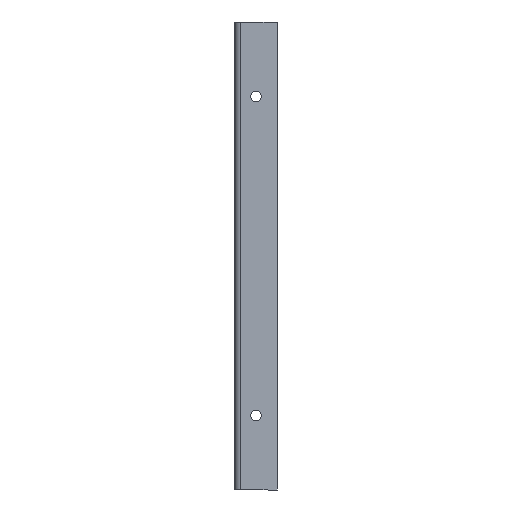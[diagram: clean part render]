
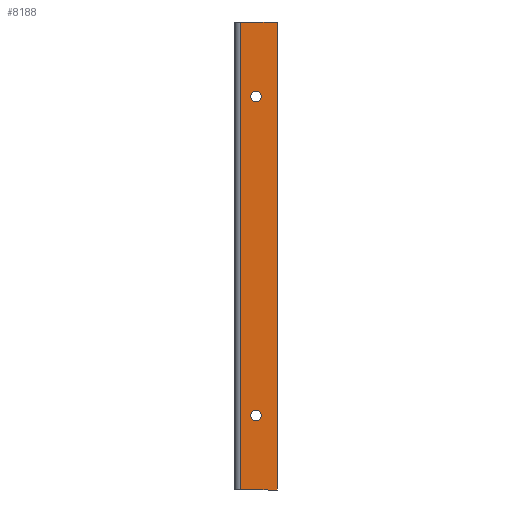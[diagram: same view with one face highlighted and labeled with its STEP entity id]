
A CAD part, front view. The second image highlights one B-rep face of the part: STEP entity #8188.
In plain terms, the highlighted planar face has unit normal (0, -1, 0).
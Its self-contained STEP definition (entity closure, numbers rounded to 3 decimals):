
#83 = CIRCLE ( 'NONE', #3416, 2.5 ) ;
#104 = VECTOR ( 'NONE', #7943, 1000. ) ;
#305 = VECTOR ( 'NONE', #509, 1000. ) ;
#463 = ORIENTED_EDGE ( 'NONE', *, *, #4886, .F. ) ;
#490 = LINE ( 'NONE', #6359, #4039 ) ;
#509 = DIRECTION ( 'NONE',  ( 0., 0., -1. ) ) ;
#555 = EDGE_LOOP ( 'NONE', ( #7498, #463 ) ) ;
#562 = FACE_OUTER_BOUND ( 'NONE', #2497, .T. ) ;
#565 = DIRECTION ( 'NONE',  ( -1., 0., 0. ) ) ;
#649 = CIRCLE ( 'NONE', #8362, 2.5 ) ;
#812 = DIRECTION ( 'NONE',  ( 0., -1., 0. ) ) ;
#867 = VERTEX_POINT ( 'NONE', #5971 ) ;
#869 = EDGE_CURVE ( 'NONE', #7616, #867, #3532, .T. ) ;
#918 = EDGE_CURVE ( 'NONE', #7039, #6592, #2030, .T. ) ;
#964 = FACE_BOUND ( 'NONE', #555, .T. ) ;
#1335 = EDGE_CURVE ( 'NONE', #7616, #5895, #490, .T. ) ;
#1401 = AXIS2_PLACEMENT_3D ( 'NONE', #2855, #5992, #3437 ) ;
#1469 = VERTEX_POINT ( 'NONE', #5785 ) ;
#1473 = CARTESIAN_POINT ( 'NONE',  ( 120., -2., 100. ) ) ;
#1511 = VERTEX_POINT ( 'NONE', #7115 ) ;
#1671 = ORIENTED_EDGE ( 'NONE', *, *, #3960, .F. ) ;
#1777 = CARTESIAN_POINT ( 'NONE',  ( 120., -2., 100. ) ) ;
#1911 = EDGE_CURVE ( 'NONE', #867, #3880, #2838, .T. ) ;
#2030 = CIRCLE ( 'NONE', #3813, 2.5 ) ;
#2435 = CARTESIAN_POINT ( 'NONE',  ( 102.736, -2., -120. ) ) ;
#2441 = CARTESIAN_POINT ( 'NONE',  ( 120., -2., 100. ) ) ;
#2452 = CARTESIAN_POINT ( 'NONE',  ( 110., -2., 62.5 ) ) ;
#2473 = EDGE_CURVE ( 'NONE', #3880, #5895, #5758, .T. ) ;
#2497 = EDGE_LOOP ( 'NONE', ( #2871, #3937, #5492, #7810 ) ) ;
#2804 = DIRECTION ( 'NONE',  ( 0., 0., -1. ) ) ;
#2838 = LINE ( 'NONE', #2441, #305 ) ;
#2855 = CARTESIAN_POINT ( 'NONE',  ( 110., -2., 65. ) ) ;
#2871 = ORIENTED_EDGE ( 'NONE', *, *, #869, .F. ) ;
#3416 = AXIS2_PLACEMENT_3D ( 'NONE', #3910, #7266, #5917 ) ;
#3437 = DIRECTION ( 'NONE',  ( 0., 0., -1. ) ) ;
#3497 = DIRECTION ( 'NONE',  ( 0., -1., 0. ) ) ;
#3532 = LINE ( 'NONE', #1473, #104 ) ;
#3765 = CARTESIAN_POINT ( 'NONE',  ( 120., -2., -120. ) ) ;
#3813 = AXIS2_PLACEMENT_3D ( 'NONE', #4091, #3497, #2804 ) ;
#3880 = VERTEX_POINT ( 'NONE', #6655 ) ;
#3910 = CARTESIAN_POINT ( 'NONE',  ( 110., -2., -85. ) ) ;
#3937 = ORIENTED_EDGE ( 'NONE', *, *, #1335, .T. ) ;
#3960 = EDGE_CURVE ( 'NONE', #6592, #7039, #8197, .T. ) ;
#4039 = VECTOR ( 'NONE', #7599, 1000. ) ;
#4091 = CARTESIAN_POINT ( 'NONE',  ( 110., -2., 65. ) ) ;
#4356 = EDGE_LOOP ( 'NONE', ( #5400, #1671 ) ) ;
#4726 = CARTESIAN_POINT ( 'NONE',  ( 110., -2., -85. ) ) ;
#4886 = EDGE_CURVE ( 'NONE', #1469, #1511, #649, .T. ) ;
#5034 = PLANE ( 'NONE',  #6249 ) ;
#5400 = ORIENTED_EDGE ( 'NONE', *, *, #918, .F. ) ;
#5421 = DIRECTION ( 'NONE',  ( 0., 0., -1. ) ) ;
#5477 = EDGE_CURVE ( 'NONE', #1511, #1469, #83, .T. ) ;
#5492 = ORIENTED_EDGE ( 'NONE', *, *, #2473, .F. ) ;
#5758 = LINE ( 'NONE', #3765, #5857 ) ;
#5785 = CARTESIAN_POINT ( 'NONE',  ( 110., -2., -87.5 ) ) ;
#5857 = VECTOR ( 'NONE', #8405, 1000. ) ;
#5895 = VERTEX_POINT ( 'NONE', #2435 ) ;
#5917 = DIRECTION ( 'NONE',  ( 0., 0., -1. ) ) ;
#5971 = CARTESIAN_POINT ( 'NONE',  ( 120., -2., 100. ) ) ;
#5981 = CARTESIAN_POINT ( 'NONE',  ( 102.736, -2., 100. ) ) ;
#5992 = DIRECTION ( 'NONE',  ( 0., -1., 0. ) ) ;
#6249 = AXIS2_PLACEMENT_3D ( 'NONE', #1777, #6312, #565 ) ;
#6312 = DIRECTION ( 'NONE',  ( 0., -1., 0. ) ) ;
#6359 = CARTESIAN_POINT ( 'NONE',  ( 102.736, -2., 100. ) ) ;
#6592 = VERTEX_POINT ( 'NONE', #2452 ) ;
#6655 = CARTESIAN_POINT ( 'NONE',  ( 120., -2., -120. ) ) ;
#7039 = VERTEX_POINT ( 'NONE', #7290 ) ;
#7115 = CARTESIAN_POINT ( 'NONE',  ( 110., -2., -82.5 ) ) ;
#7266 = DIRECTION ( 'NONE',  ( 0., -1., 0. ) ) ;
#7290 = CARTESIAN_POINT ( 'NONE',  ( 110., -2., 67.5 ) ) ;
#7498 = ORIENTED_EDGE ( 'NONE', *, *, #5477, .F. ) ;
#7599 = DIRECTION ( 'NONE',  ( 0., 0., -1. ) ) ;
#7616 = VERTEX_POINT ( 'NONE', #5981 ) ;
#7650 = FACE_BOUND ( 'NONE', #4356, .T. ) ;
#7810 = ORIENTED_EDGE ( 'NONE', *, *, #1911, .F. ) ;
#7943 = DIRECTION ( 'NONE',  ( 1., 0., 0. ) ) ;
#8188 = ADVANCED_FACE ( 'NONE', ( #964, #7650, #562 ), #5034, .T. ) ;
#8197 = CIRCLE ( 'NONE', #1401, 2.5 ) ;
#8362 = AXIS2_PLACEMENT_3D ( 'NONE', #4726, #812, #5421 ) ;
#8405 = DIRECTION ( 'NONE',  ( -1., 0., 0. ) ) ;
